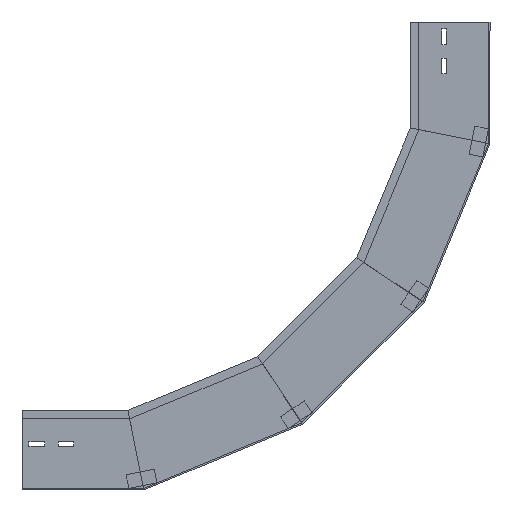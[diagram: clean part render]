
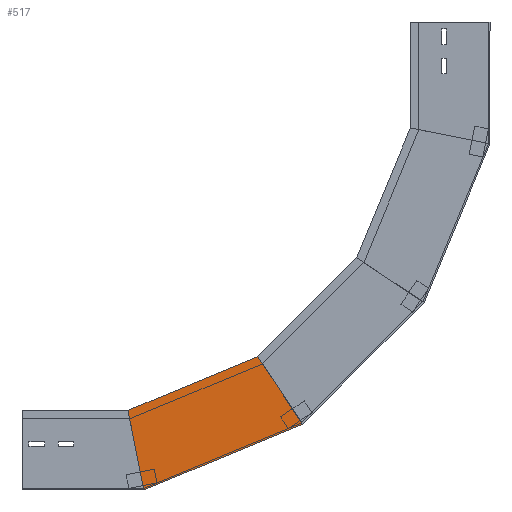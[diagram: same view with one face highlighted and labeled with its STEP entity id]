
A CAD part, left-side view. The second image highlights one B-rep face of the part: STEP entity #517.
In plain terms, the highlighted planar face has unit normal (-1, 0, 0) as drawn and (1, 0, 0) by its records, which use the part's own axes.
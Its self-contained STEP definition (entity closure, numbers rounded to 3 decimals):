
#67 = VECTOR ( 'NONE', #88, 1000. ) ;
#88 = DIRECTION ( 'NONE',  ( 0., 0.383, -0.924 ) ) ;
#104 = CARTESIAN_POINT ( 'NONE',  ( 0., 0., -172.1 ) ) ;
#112 = EDGE_CURVE ( 'NONE', #654, #507, #660, .T. ) ;
#181 = AXIS2_PLACEMENT_3D ( 'NONE', #686, #965, #1846 ) ;
#261 = CARTESIAN_POINT ( 'NONE',  ( 0., 132.464, -370.346 ) ) ;
#293 = DIRECTION ( 'NONE',  ( 0., -0.981, -0.195 ) ) ;
#333 = CARTESIAN_POINT ( 'NONE',  ( 0., 112.5, -149.722 ) ) ;
#507 = VERTEX_POINT ( 'NONE', #1722 ) ;
#517 = ADVANCED_FACE ( 'NONE', ( #1549 ), #1123, .F. ) ;
#533 = EDGE_CURVE ( 'NONE', #1751, #943, #656, .T. ) ;
#561 = DIRECTION ( 'NONE',  ( 0., 0.383, -0.924 ) ) ;
#575 = CARTESIAN_POINT ( 'NONE',  ( 0., 93.03, -396.695 ) ) ;
#593 = EDGE_CURVE ( 'NONE', #507, #943, #1568, .T. ) ;
#654 = VERTEX_POINT ( 'NONE', #333 ) ;
#656 = LINE ( 'NONE', #1098, #67 ) ;
#660 = LINE ( 'NONE', #828, #756 ) ;
#686 = CARTESIAN_POINT ( 'NONE',  ( 0., 0., -172.1 ) ) ;
#756 = VECTOR ( 'NONE', #561, 1000. ) ;
#828 = CARTESIAN_POINT ( 'NONE',  ( 0., 103.936, -129.048 ) ) ;
#835 = DIRECTION ( 'NONE',  ( 0., -0.831, -0.556 ) ) ;
#894 = EDGE_LOOP ( 'NONE', ( #1790, #1167, #1755, #1186 ) ) ;
#943 = VERTEX_POINT ( 'NONE', #575 ) ;
#965 = DIRECTION ( 'NONE',  ( -1., 0., 0. ) ) ;
#1014 = EDGE_CURVE ( 'NONE', #654, #1751, #1307, .T. ) ;
#1098 = CARTESIAN_POINT ( 'NONE',  ( 0., 0., -172.1 ) ) ;
#1118 = CARTESIAN_POINT ( 'NONE',  ( 0., 32.93, -165.55 ) ) ;
#1123 = PLANE ( 'NONE',  #181 ) ;
#1167 = ORIENTED_EDGE ( 'NONE', *, *, #1014, .T. ) ;
#1179 = VECTOR ( 'NONE', #835, 1000. ) ;
#1186 = ORIENTED_EDGE ( 'NONE', *, *, #593, .F. ) ;
#1307 = LINE ( 'NONE', #1118, #1492 ) ;
#1492 = VECTOR ( 'NONE', #293, 1000. ) ;
#1549 = FACE_OUTER_BOUND ( 'NONE', #894, .T. ) ;
#1568 = LINE ( 'NONE', #261, #1179 ) ;
#1722 = CARTESIAN_POINT ( 'NONE',  ( 0., 188.403, -332.969 ) ) ;
#1751 = VERTEX_POINT ( 'NONE', #104 ) ;
#1755 = ORIENTED_EDGE ( 'NONE', *, *, #533, .T. ) ;
#1790 = ORIENTED_EDGE ( 'NONE', *, *, #112, .F. ) ;
#1846 = DIRECTION ( 'NONE',  ( 0., 0., 1. ) ) ;
